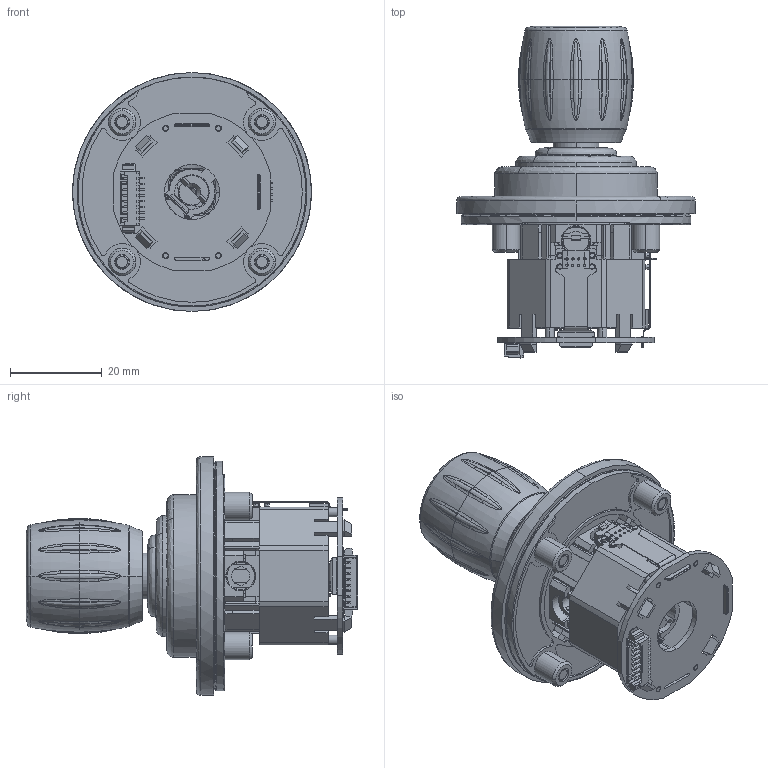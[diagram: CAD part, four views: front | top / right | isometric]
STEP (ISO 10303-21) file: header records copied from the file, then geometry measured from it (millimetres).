
FILE_DESCRIPTION (( 'STEP AP203' ), '1' );
FILE_NAME ('03.008.00.EIN.STEP', '2022-05-13T09:09:54', ( '' ), ( '' ), 'SwSTEP 2.0', 'SolidWorks 2019', '' );
FILE_SCHEMA (( 'CONFIG_CONTROL_DESIGN' ));
Length unit declared in the file: millimetre
Products named in the file (1): 03.008.00.EIN
Bounding box: 52 x 72.22 x 52 mm (x, y, z)
Volume: 25440.5 mm3; surface area: 33778.4 mm2
Topology: 2 solids, 2 shells, 3334 faces, 9275 edges, 5852 vertices
Faces by surface type: plane 1813, cylinder 728, bspline 539, cone 196, torus 42, sphere 16
Entity records: 119486 total; most frequent: CARTESIAN_POINT 36255, ORIENTED_EDGE 18480, DIRECTION 16175, EDGE_CURVE 9240, VERTEX_POINT 5852, VECTOR 5573, LINE 5573, AXIS2_PLACEMENT_3D 5301
